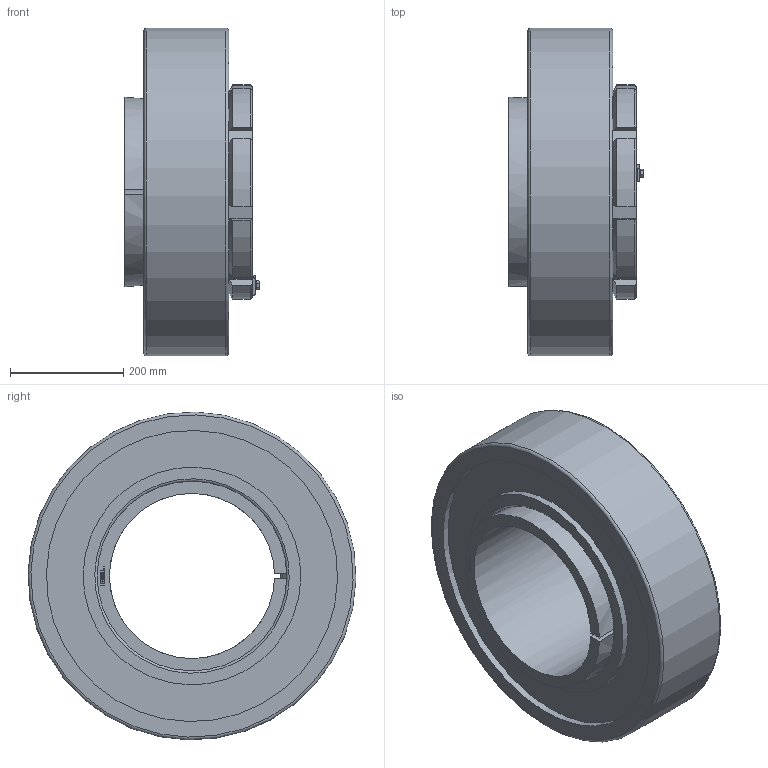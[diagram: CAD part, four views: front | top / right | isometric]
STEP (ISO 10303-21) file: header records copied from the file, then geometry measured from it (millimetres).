
FILE_DESCRIPTION( ( 'STEP AP203' ), ' ' );
FILE_NAME( 'p:/temp/worker_354/4592_3988/app_90_02016102823054256113770192d056f_000000_00_00_000000/format_0/BGL HE 3164 TL+22264K.stp', '2016-10-28T21:05:44', ( '' ), ( '' ), ' ', 'PARTsolutions', ' ' );
FILE_SCHEMA( ( 'CONFIG_CONTROL_DESIGN' ) );
Length unit declared in the file: millimetre
Products named in the file (6): BGL HE 3164 TL+22264K; _BGLHE3164TLB; _BGL HM 3064; _BGLHE3164TL+HE-22264K; _BGL MS 3064-BGL MS 3068part; _BGL MS 3064-BGL MS 3068HHS
Assembly tree (5 placements, depth 2):
  BGL HE 3164 TL+22264K
    _BGLHE3164TLB
    _BGL HM 3064
    _BGLHE3164TL+HE-22264K
    _BGL MS 3064-BGL MS 3068part
    _BGL MS 3064-BGL MS 3068HHS
Bounding box: 238.05 x 579.8 x 579.8 mm (x, y, z)
Volume: 29578882.7 mm3; surface area: 1483135 mm2
Topology: 5 solids, 5 shells, 351 faces, 899 edges, 589 vertices
Faces by surface type: plane 230, cylinder 79, cone 38, torus 4
Full cylindrical faces by diameter (mm): 8 x9, 9 x1, 14.8 x1, 315 x1, 385 x2, 515 x2, 580 x1
Entity records: 10762 total; most frequent: CARTESIAN_POINT 2104, DIRECTION 1729, ORIENTED_EDGE 1726, EDGE_CURVE 863, VERTEX_POINT 586, AXIS2_PLACEMENT_3D 577, LINE 575, VECTOR 575
